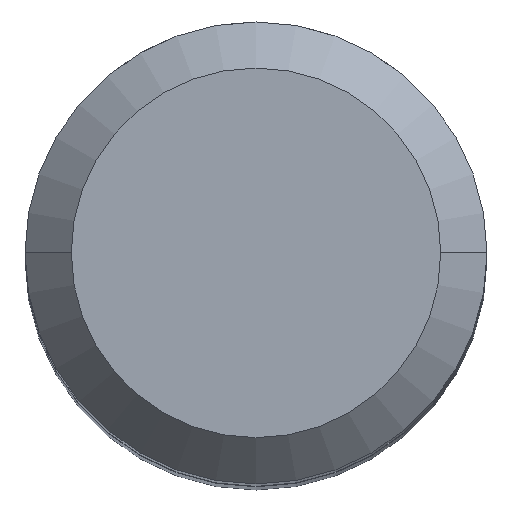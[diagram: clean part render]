
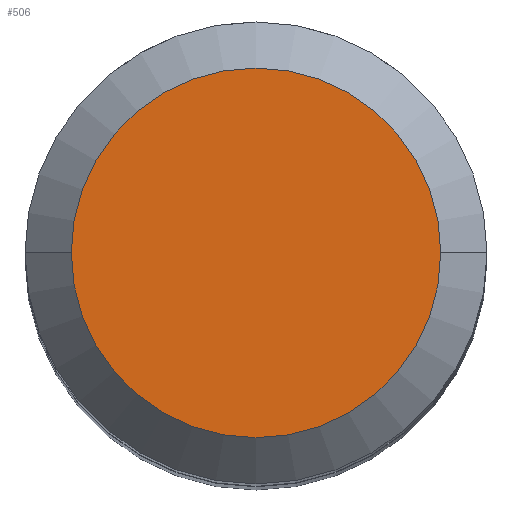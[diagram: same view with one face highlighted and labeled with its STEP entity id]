
A CAD part, top view. The second image highlights one B-rep face of the part: STEP entity #506.
In plain terms, the highlighted planar face has unit normal (0, 0, 1).
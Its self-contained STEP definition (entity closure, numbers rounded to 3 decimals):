
#18 = DIRECTION ( 'NONE',  ( -1., 0., 0. ) ) ;
#40 = CARTESIAN_POINT ( 'NONE',  ( 0., 0., 0. ) ) ;
#84 = CARTESIAN_POINT ( 'NONE',  ( -8., 0., 0. ) ) ;
#100 = DIRECTION ( 'NONE',  ( 1., 0., 0. ) ) ;
#134 = CIRCLE ( 'NONE', #457, 8. ) ;
#149 = AXIS2_PLACEMENT_3D ( 'NONE', #190, #336, #100 ) ;
#151 = DIRECTION ( 'NONE',  ( -1., 0., 0. ) ) ;
#190 = CARTESIAN_POINT ( 'NONE',  ( 0., 8., 0. ) ) ;
#204 = ORIENTED_EDGE ( 'NONE', *, *, #401, .F. ) ;
#269 = CARTESIAN_POINT ( 'NONE',  ( 0., 0., 0. ) ) ;
#336 = DIRECTION ( 'NONE',  ( 0., 0., 1. ) ) ;
#339 = VERTEX_POINT ( 'NONE', #84 ) ;
#386 = FACE_OUTER_BOUND ( 'NONE', #629, .T. ) ;
#401 = EDGE_CURVE ( 'NONE', #339, #449, #134, .T. ) ;
#449 = VERTEX_POINT ( 'NONE', #552 ) ;
#457 = AXIS2_PLACEMENT_3D ( 'NONE', #269, #468, #18 ) ;
#465 = AXIS2_PLACEMENT_3D ( 'NONE', #40, #600, #151 ) ;
#468 = DIRECTION ( 'NONE',  ( 0., 0., -1. ) ) ;
#506 = ADVANCED_FACE ( 'NONE', ( #386 ), #605, .T. ) ;
#537 = CIRCLE ( 'NONE', #465, 8. ) ;
#539 = EDGE_CURVE ( 'NONE', #449, #339, #537, .T. ) ;
#545 = ORIENTED_EDGE ( 'NONE', *, *, #539, .F. ) ;
#552 = CARTESIAN_POINT ( 'NONE',  ( 8., 0., 0. ) ) ;
#600 = DIRECTION ( 'NONE',  ( 0., 0., -1. ) ) ;
#605 = PLANE ( 'NONE',  #149 ) ;
#629 = EDGE_LOOP ( 'NONE', ( #204, #545 ) ) ;
